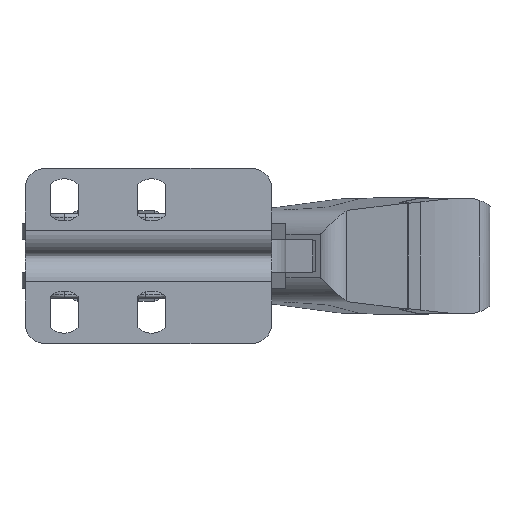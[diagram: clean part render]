
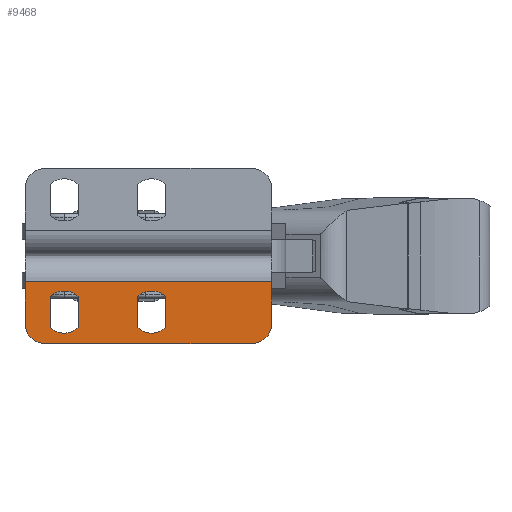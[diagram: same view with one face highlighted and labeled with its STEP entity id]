
A CAD part, front view. The second image highlights one B-rep face of the part: STEP entity #9468.
In plain terms, the highlighted planar face has unit normal (0, -1, 0).
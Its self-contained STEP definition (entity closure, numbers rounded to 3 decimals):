
#11 = CARTESIAN_POINT ( 'NONE',  ( 6., 0., -8.65 ) ) ;
#51 = EDGE_CURVE ( 'NONE', #5589, #5261, #9685, .T. ) ;
#78 = DIRECTION ( 'NONE',  ( 0., 0., 1. ) ) ;
#147 = ORIENTED_EDGE ( 'NONE', *, *, #3291, .F. ) ;
#309 = LINE ( 'NONE', #5470, #1916 ) ;
#374 = EDGE_CURVE ( 'NONE', #382, #4390, #6280, .T. ) ;
#382 = VERTEX_POINT ( 'NONE', #6900 ) ;
#397 = CARTESIAN_POINT ( 'NONE',  ( 6., 0., -8.65 ) ) ;
#491 = AXIS2_PLACEMENT_3D ( 'NONE', #397, #3359, #3321 ) ;
#578 = CARTESIAN_POINT ( 'NONE',  ( 19.5, 0., -8.65 ) ) ;
#803 = CARTESIAN_POINT ( 'NONE',  ( 38., 0., -4. ) ) ;
#846 = EDGE_CURVE ( 'NONE', #11569, #4329, #9950, .T. ) ;
#1013 = CARTESIAN_POINT ( 'NONE',  ( 0., 0., -4. ) ) ;
#1214 = VECTOR ( 'NONE', #3706, 1000. ) ;
#1702 = AXIS2_PLACEMENT_3D ( 'NONE', #578, #7866, #3376 ) ;
#1753 = CIRCLE ( 'NONE', #5279, 3. ) ;
#1817 = EDGE_LOOP ( 'NONE', ( #147, #8516, #3574, #5084, #4690, #1860 ) ) ;
#1849 = CARTESIAN_POINT ( 'NONE',  ( 19.5, 0., -8.65 ) ) ;
#1860 = ORIENTED_EDGE ( 'NONE', *, *, #11767, .T. ) ;
#1896 = LINE ( 'NONE', #3305, #9853 ) ;
#1916 = VECTOR ( 'NONE', #6457, 1000. ) ;
#2056 = CARTESIAN_POINT ( 'NONE',  ( 21.65, 0., -6.213 ) ) ;
#2216 = CIRCLE ( 'NONE', #1702, 3.25 ) ;
#2355 = FACE_OUTER_BOUND ( 'NONE', #1817, .T. ) ;
#2422 = LINE ( 'NONE', #10191, #1214 ) ;
#2559 = CARTESIAN_POINT ( 'NONE',  ( 19.5, 0., -5.4 ) ) ;
#2677 = VECTOR ( 'NONE', #4293, 1000. ) ;
#2803 = DIRECTION ( 'NONE',  ( 0., 0., 1. ) ) ;
#2879 = VECTOR ( 'NONE', #7882, 1000. ) ;
#3291 = EDGE_CURVE ( 'NONE', #6144, #4108, #6983, .T. ) ;
#3305 = CARTESIAN_POINT ( 'NONE',  ( 38., 0., -13.5 ) ) ;
#3321 = DIRECTION ( 'NONE',  ( 0., 0., 1. ) ) ;
#3359 = DIRECTION ( 'NONE',  ( 0., -1., 0. ) ) ;
#3376 = DIRECTION ( 'NONE',  ( 0., 0., 1. ) ) ;
#3458 = ORIENTED_EDGE ( 'NONE', *, *, #7921, .F. ) ;
#3481 = ORIENTED_EDGE ( 'NONE', *, *, #11584, .F. ) ;
#3548 = EDGE_CURVE ( 'NONE', #5261, #4522, #5812, .T. ) ;
#3556 = CARTESIAN_POINT ( 'NONE',  ( 3., 0., -13.5 ) ) ;
#3574 = ORIENTED_EDGE ( 'NONE', *, *, #10717, .F. ) ;
#3593 = CARTESIAN_POINT ( 'NONE',  ( 21.65, 0., -4. ) ) ;
#3671 = EDGE_CURVE ( 'NONE', #10285, #6704, #5954, .T. ) ;
#3706 = DIRECTION ( 'NONE',  ( 0., 0., -1. ) ) ;
#3950 = LINE ( 'NONE', #3593, #10914 ) ;
#4108 = VERTEX_POINT ( 'NONE', #4853 ) ;
#4293 = DIRECTION ( 'NONE',  ( 0., 0., -1. ) ) ;
#4329 = VERTEX_POINT ( 'NONE', #2559 ) ;
#4349 = CARTESIAN_POINT ( 'NONE',  ( 35., 0., -10.5 ) ) ;
#4390 = VERTEX_POINT ( 'NONE', #10601 ) ;
#4409 = ORIENTED_EDGE ( 'NONE', *, *, #6127, .F. ) ;
#4522 = VERTEX_POINT ( 'NONE', #9803 ) ;
#4614 = PLANE ( 'NONE',  #5418 ) ;
#4619 = FACE_BOUND ( 'NONE', #11828, .T. ) ;
#4690 = ORIENTED_EDGE ( 'NONE', *, *, #8262, .F. ) ;
#4732 = AXIS2_PLACEMENT_3D ( 'NONE', #7418, #11007, #8384 ) ;
#4853 = CARTESIAN_POINT ( 'NONE',  ( 0., 0., -10.5 ) ) ;
#4963 = EDGE_CURVE ( 'NONE', #4329, #6646, #2216, .T. ) ;
#4990 = VECTOR ( 'NONE', #7175, 1000. ) ;
#5063 = CARTESIAN_POINT ( 'NONE',  ( 21.65, 0., -11.087 ) ) ;
#5084 = ORIENTED_EDGE ( 'NONE', *, *, #3671, .F. ) ;
#5159 = CARTESIAN_POINT ( 'NONE',  ( 8.15, 0., -6.213 ) ) ;
#5242 = CARTESIAN_POINT ( 'NONE',  ( 17.35, 0., -4. ) ) ;
#5261 = VERTEX_POINT ( 'NONE', #6493 ) ;
#5279 = AXIS2_PLACEMENT_3D ( 'NONE', #4349, #11559, #6080 ) ;
#5375 = VECTOR ( 'NONE', #10638, 1000. ) ;
#5418 = AXIS2_PLACEMENT_3D ( 'NONE', #11087, #11256, #8507 ) ;
#5470 = CARTESIAN_POINT ( 'NONE',  ( 8.15, 0., -4. ) ) ;
#5557 = VERTEX_POINT ( 'NONE', #5063 ) ;
#5574 = DIRECTION ( 'NONE',  ( 0., -1., 0. ) ) ;
#5589 = VERTEX_POINT ( 'NONE', #5159 ) ;
#5812 = CIRCLE ( 'NONE', #9728, 3.25 ) ;
#5881 = ORIENTED_EDGE ( 'NONE', *, *, #7590, .F. ) ;
#5892 = CARTESIAN_POINT ( 'NONE',  ( 0., 0., 4. ) ) ;
#5918 = EDGE_LOOP ( 'NONE', ( #4409, #11822, #11684, #5881, #3481 ) ) ;
#5954 = LINE ( 'NONE', #7171, #2677 ) ;
#6048 = DIRECTION ( 'NONE',  ( 0., -1., 0. ) ) ;
#6080 = DIRECTION ( 'NONE',  ( 0., 0., 1. ) ) ;
#6096 = LINE ( 'NONE', #7096, #5375 ) ;
#6127 = EDGE_CURVE ( 'NONE', #6646, #9814, #6163, .T. ) ;
#6144 = VERTEX_POINT ( 'NONE', #3556 ) ;
#6163 = LINE ( 'NONE', #5242, #4990 ) ;
#6221 = CARTESIAN_POINT ( 'NONE',  ( 3., 0., -10.5 ) ) ;
#6280 = CIRCLE ( 'NONE', #491, 3.25 ) ;
#6457 = DIRECTION ( 'NONE',  ( 0., 0., 1. ) ) ;
#6493 = CARTESIAN_POINT ( 'NONE',  ( 6., 0., -5.4 ) ) ;
#6646 = VERTEX_POINT ( 'NONE', #9515 ) ;
#6704 = VERTEX_POINT ( 'NONE', #7664 ) ;
#6900 = CARTESIAN_POINT ( 'NONE',  ( 3.85, 0., -11.087 ) ) ;
#6983 = CIRCLE ( 'NONE', #11226, 3. ) ;
#7068 = FACE_BOUND ( 'NONE', #5918, .T. ) ;
#7096 = CARTESIAN_POINT ( 'NONE',  ( 38., 0., -4. ) ) ;
#7110 = VERTEX_POINT ( 'NONE', #1013 ) ;
#7171 = CARTESIAN_POINT ( 'NONE',  ( 38., 0., 4. ) ) ;
#7175 = DIRECTION ( 'NONE',  ( 0., 0., -1. ) ) ;
#7310 = VERTEX_POINT ( 'NONE', #7859 ) ;
#7418 = CARTESIAN_POINT ( 'NONE',  ( 19.5, 0., -8.65 ) ) ;
#7590 = EDGE_CURVE ( 'NONE', #5557, #11569, #3950, .T. ) ;
#7664 = CARTESIAN_POINT ( 'NONE',  ( 38., 0., -10.5 ) ) ;
#7859 = CARTESIAN_POINT ( 'NONE',  ( 35., 0., -13.5 ) ) ;
#7866 = DIRECTION ( 'NONE',  ( 0., -1., 0. ) ) ;
#7882 = DIRECTION ( 'NONE',  ( 0., 0., -1. ) ) ;
#7921 = EDGE_CURVE ( 'NONE', #4522, #382, #2422, .T. ) ;
#8262 = EDGE_CURVE ( 'NONE', #7110, #10285, #6096, .T. ) ;
#8384 = DIRECTION ( 'NONE',  ( 0., 0., 1. ) ) ;
#8507 = DIRECTION ( 'NONE',  ( 0., 0., 1. ) ) ;
#8516 = ORIENTED_EDGE ( 'NONE', *, *, #10800, .F. ) ;
#8613 = CARTESIAN_POINT ( 'NONE',  ( 6., 0., -8.65 ) ) ;
#8682 = ORIENTED_EDGE ( 'NONE', *, *, #51, .F. ) ;
#9127 = LINE ( 'NONE', #5892, #2879 ) ;
#9280 = AXIS2_PLACEMENT_3D ( 'NONE', #11, #5574, #78 ) ;
#9425 = EDGE_CURVE ( 'NONE', #4390, #5589, #309, .T. ) ;
#9468 = ADVANCED_FACE ( 'NONE', ( #7068, #2355, #4619 ), #4614, .F. ) ;
#9515 = CARTESIAN_POINT ( 'NONE',  ( 17.35, 0., -6.213 ) ) ;
#9685 = CIRCLE ( 'NONE', #9280, 3.25 ) ;
#9687 = DIRECTION ( 'NONE',  ( -1., 0., 0. ) ) ;
#9728 = AXIS2_PLACEMENT_3D ( 'NONE', #8613, #6048, #11436 ) ;
#9803 = CARTESIAN_POINT ( 'NONE',  ( 3.85, 0., -6.213 ) ) ;
#9808 = ORIENTED_EDGE ( 'NONE', *, *, #9425, .F. ) ;
#9814 = VERTEX_POINT ( 'NONE', #10848 ) ;
#9853 = VECTOR ( 'NONE', #9687, 1000. ) ;
#9950 = CIRCLE ( 'NONE', #11831, 3.25 ) ;
#9977 = DIRECTION ( 'NONE',  ( 0., 1., 0. ) ) ;
#10191 = CARTESIAN_POINT ( 'NONE',  ( 3.85, 0., -4. ) ) ;
#10285 = VERTEX_POINT ( 'NONE', #803 ) ;
#10534 = ORIENTED_EDGE ( 'NONE', *, *, #374, .F. ) ;
#10551 = CIRCLE ( 'NONE', #4732, 3.25 ) ;
#10601 = CARTESIAN_POINT ( 'NONE',  ( 8.15, 0., -11.087 ) ) ;
#10638 = DIRECTION ( 'NONE',  ( 1., 0., 0. ) ) ;
#10717 = EDGE_CURVE ( 'NONE', #6704, #7310, #1753, .T. ) ;
#10800 = EDGE_CURVE ( 'NONE', #7310, #6144, #1896, .T. ) ;
#10848 = CARTESIAN_POINT ( 'NONE',  ( 17.35, 0., -11.087 ) ) ;
#10905 = DIRECTION ( 'NONE',  ( 0., -1., 0. ) ) ;
#10914 = VECTOR ( 'NONE', #11703, 1000. ) ;
#11007 = DIRECTION ( 'NONE',  ( 0., -1., 0. ) ) ;
#11087 = CARTESIAN_POINT ( 'NONE',  ( 38., 0., -4. ) ) ;
#11125 = ORIENTED_EDGE ( 'NONE', *, *, #3548, .F. ) ;
#11226 = AXIS2_PLACEMENT_3D ( 'NONE', #6221, #9977, #11697 ) ;
#11256 = DIRECTION ( 'NONE',  ( 0., 1., 0. ) ) ;
#11436 = DIRECTION ( 'NONE',  ( 0., 0., 1. ) ) ;
#11559 = DIRECTION ( 'NONE',  ( 0., 1., 0. ) ) ;
#11569 = VERTEX_POINT ( 'NONE', #2056 ) ;
#11584 = EDGE_CURVE ( 'NONE', #9814, #5557, #10551, .T. ) ;
#11684 = ORIENTED_EDGE ( 'NONE', *, *, #846, .F. ) ;
#11697 = DIRECTION ( 'NONE',  ( 0., 0., 1. ) ) ;
#11703 = DIRECTION ( 'NONE',  ( 0., 0., 1. ) ) ;
#11767 = EDGE_CURVE ( 'NONE', #7110, #4108, #9127, .T. ) ;
#11822 = ORIENTED_EDGE ( 'NONE', *, *, #4963, .F. ) ;
#11828 = EDGE_LOOP ( 'NONE', ( #3458, #11125, #8682, #9808, #10534 ) ) ;
#11831 = AXIS2_PLACEMENT_3D ( 'NONE', #1849, #10905, #2803 ) ;
